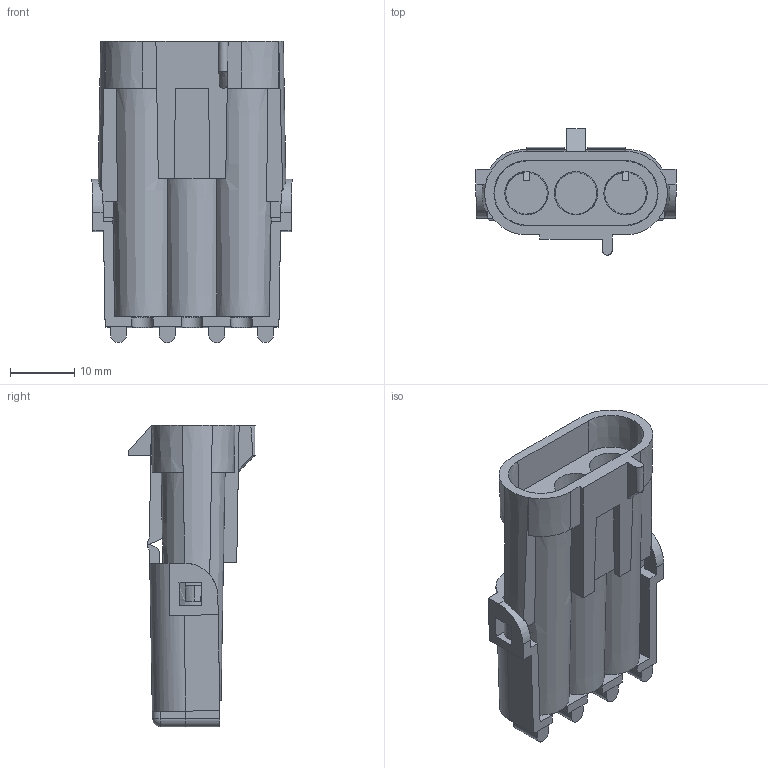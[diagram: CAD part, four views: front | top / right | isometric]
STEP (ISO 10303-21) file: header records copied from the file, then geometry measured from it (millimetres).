
FILE_DESCRIPTION(/* description */ (''),/* implementation_level */ '2;1');
FILE_NAME(/* name */ '12010717-ENV11_08-CONN.stp',/* time_stamp */ '2021-09-06T16:41:33+05:00',/* author */ (''),/* organization */ (''),/* preprocessor_version */ 'ST-DEVELOPER v16',/* originating_system */ 'SIEMENS PLM Software NX 11.0',/* authorisation */ '');
FILE_SCHEMA (('AP203_CONFIGURATION_CONTROLLED_3D_DESIGN_OF_MECHANICAL_PARTS_AND_ASSEMBLIES_MIM_LF { 1 0 10303 403 2 1 2}'));
Length unit declared in the file: millimetre
Products named in the file (1): hjcv4A68214C0bd8
Bounding box: 31.1 x 19.65 x 46.82 mm (x, y, z)
Volume: 9369.5 mm3; surface area: 7923.6 mm2
Topology: 1 solids, 1 shells, 176 faces, 514 edges, 330 vertices
Faces by surface type: plane 128, cylinder 28, cone 17, sphere 2, extrusion 1
Entity records: 5968 total; most frequent: CARTESIAN_POINT 1216, ORIENTED_EDGE 1008, DIRECTION 941, EDGE_CURVE 504, VECTOR 341, LINE 340, VERTEX_POINT 325, AXIS2_PLACEMENT_3D 300
